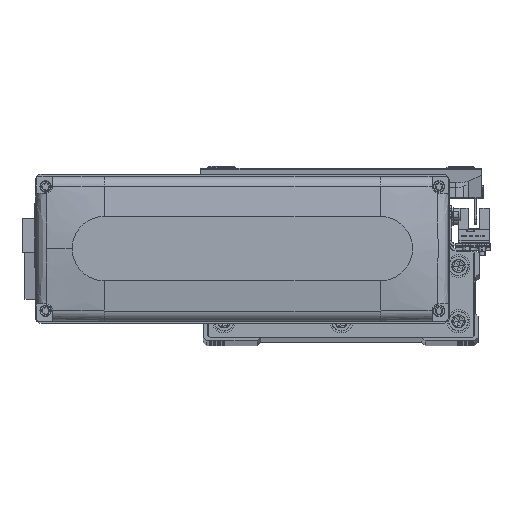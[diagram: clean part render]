
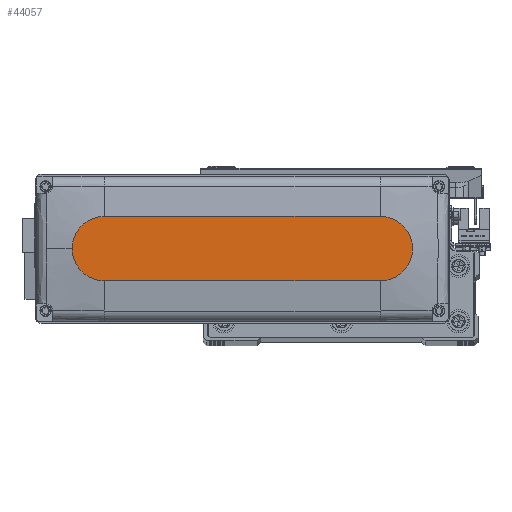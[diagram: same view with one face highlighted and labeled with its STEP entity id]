
A CAD part, top view. The second image highlights one B-rep face of the part: STEP entity #44057.
In plain terms, the highlighted planar face has unit normal (0, 0, 1).
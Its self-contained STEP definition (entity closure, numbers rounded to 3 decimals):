
#3014 = CIRCLE ( 'NONE', #30595, 14. ) ;
#3372 = CARTESIAN_POINT ( 'NONE',  ( -60., 0., 28.5 ) ) ;
#3780 = VERTEX_POINT ( 'NONE', #36812 ) ;
#5460 = CARTESIAN_POINT ( 'NONE',  ( 74., 0., 28.5 ) ) ;
#6111 = DIRECTION ( 'NONE',  ( 1., 0., 0. ) ) ;
#6368 = CIRCLE ( 'NONE', #33937, 14. ) ;
#6556 = ORIENTED_EDGE ( 'NONE', *, *, #8153, .T. ) ;
#7072 = VECTOR ( 'NONE', #28771, 1000. ) ;
#7750 = CARTESIAN_POINT ( 'NONE',  ( 0., 0., 28.5 ) ) ;
#7938 = CARTESIAN_POINT ( 'NONE',  ( 60., 0., 28.5 ) ) ;
#8101 = DIRECTION ( 'NONE',  ( -1., 0., 0. ) ) ;
#8153 = EDGE_CURVE ( 'NONE', #8563, #3780, #26867, .T. ) ;
#8563 = VERTEX_POINT ( 'NONE', #26979 ) ;
#8972 = EDGE_CURVE ( 'NONE', #37736, #47370, #3014, .T. ) ;
#13425 = AXIS2_PLACEMENT_3D ( 'NONE', #24844, #39899, #6111 ) ;
#13732 = CARTESIAN_POINT ( 'NONE',  ( -60., -14., 28.5 ) ) ;
#17905 = VECTOR ( 'NONE', #8101, 1000. ) ;
#18422 = DIRECTION ( 'NONE',  ( 0., 0., 1. ) ) ;
#19123 = EDGE_CURVE ( 'NONE', #22970, #37736, #47513, .T. ) ;
#20271 = ORIENTED_EDGE ( 'NONE', *, *, #43352, .T. ) ;
#22810 = DIRECTION ( 'NONE',  ( 0., 0., 1. ) ) ;
#22970 = VERTEX_POINT ( 'NONE', #38957 ) ;
#22993 = DIRECTION ( 'NONE',  ( 0., 0., 1. ) ) ;
#24844 = CARTESIAN_POINT ( 'NONE',  ( 60., 0., 28.5 ) ) ;
#26494 = FACE_OUTER_BOUND ( 'NONE', #35824, .T. ) ;
#26867 = LINE ( 'NONE', #41912, #17905 ) ;
#26979 = CARTESIAN_POINT ( 'NONE',  ( 60., 14., 28.5 ) ) ;
#28771 = DIRECTION ( 'NONE',  ( 1., 0., 0. ) ) ;
#30595 = AXIS2_PLACEMENT_3D ( 'NONE', #7938, #22993, #38043 ) ;
#32195 = ORIENTED_EDGE ( 'NONE', *, *, #19123, .T. ) ;
#33464 = DIRECTION ( 'NONE',  ( 1., 0., 0. ) ) ;
#33937 = AXIS2_PLACEMENT_3D ( 'NONE', #3372, #18422, #33464 ) ;
#34729 = CIRCLE ( 'NONE', #13425, 14. ) ;
#35824 = EDGE_LOOP ( 'NONE', ( #6556, #37446, #32195, #45673, #20271 ) ) ;
#36812 = CARTESIAN_POINT ( 'NONE',  ( -60., 14., 28.5 ) ) ;
#37446 = ORIENTED_EDGE ( 'NONE', *, *, #43470, .T. ) ;
#37736 = VERTEX_POINT ( 'NONE', #45122 ) ;
#37875 = DIRECTION ( 'NONE',  ( 1., 0., 0. ) ) ;
#38043 = DIRECTION ( 'NONE',  ( 1., 0., 0. ) ) ;
#38957 = CARTESIAN_POINT ( 'NONE',  ( -60., -14., 28.5 ) ) ;
#39899 = DIRECTION ( 'NONE',  ( 0., 0., 1. ) ) ;
#41548 = PLANE ( 'NONE',  #41863 ) ;
#41863 = AXIS2_PLACEMENT_3D ( 'NONE', #7750, #22810, #37875 ) ;
#41912 = CARTESIAN_POINT ( 'NONE',  ( -60., 14., 28.5 ) ) ;
#43352 = EDGE_CURVE ( 'NONE', #47370, #8563, #34729, .T. ) ;
#43470 = EDGE_CURVE ( 'NONE', #3780, #22970, #6368, .T. ) ;
#44057 = ADVANCED_FACE ( 'NONE', ( #26494 ), #41548, .T. ) ;
#45122 = CARTESIAN_POINT ( 'NONE',  ( 60., -14., 28.5 ) ) ;
#45673 = ORIENTED_EDGE ( 'NONE', *, *, #8972, .T. ) ;
#47370 = VERTEX_POINT ( 'NONE', #5460 ) ;
#47513 = LINE ( 'NONE', #13732, #7072 ) ;
